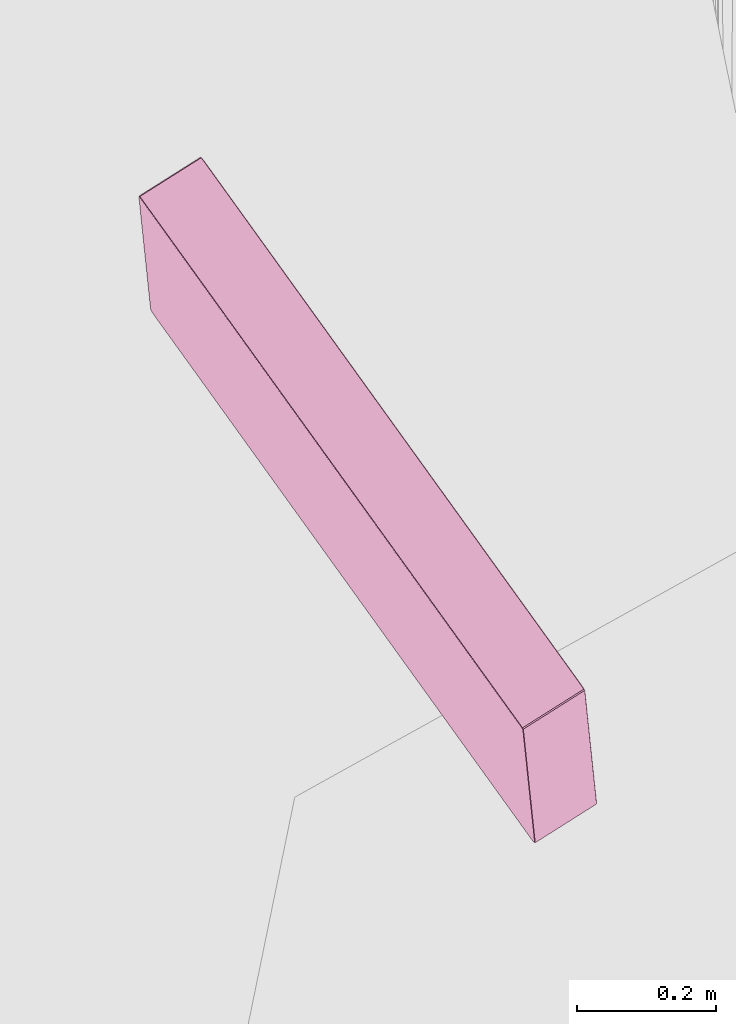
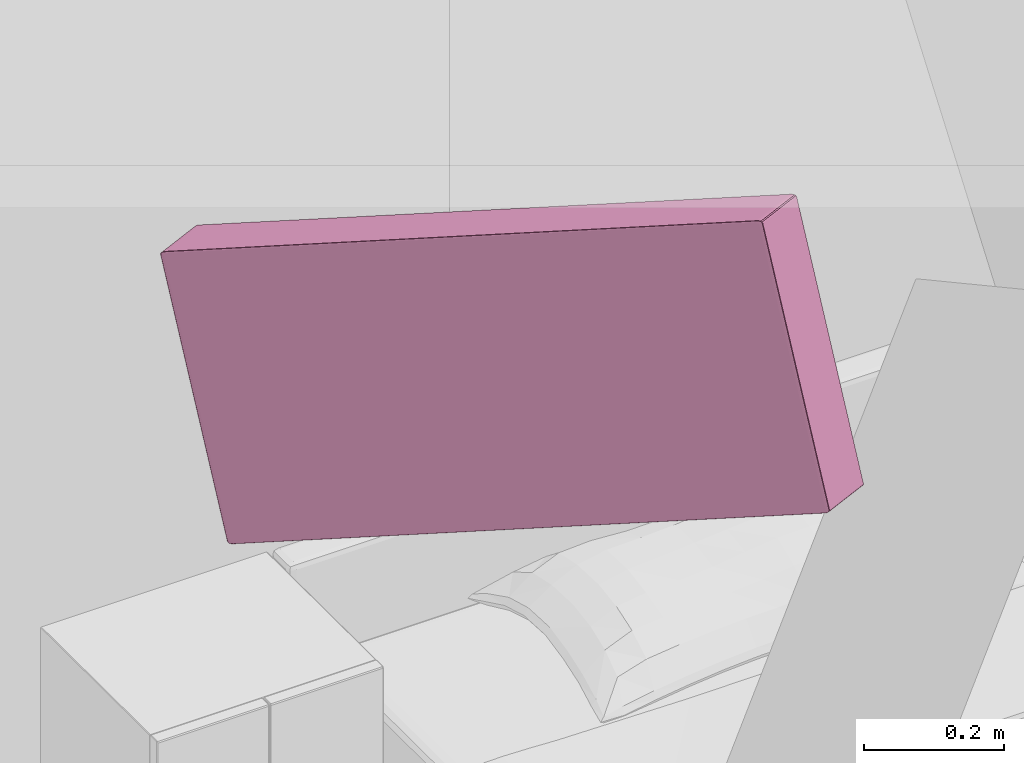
# One storey, part 9 of 15: 1 furniture element.
"""IFC4 building model written with IfcOpenShell, lengths in metres."""

from ifc_helpers import new_model, si_unit, direction, frame, origin_with_axes, place, context, project, spatial, polygons, element, save


model = new_model("IFC4")

# Units and contexts
model_context = context("Model", 3, precision=1e-05, world=origin_with_axes(), true_north=direction((-0.077, 0.997, 0.0)))
ifc_project = project(units=[si_unit("AREAUNIT", "SQUARE_METRE"), si_unit("LENGTHUNIT", "METRE")], contexts=[model_context])

# Site, building, storey, space
site_placement = place(None, origin_with_axes())
site = spatial("IfcSite", under=ifc_project, at=site_placement, Name="Site", CompositionType="ELEMENT")
building_placement = place(site_placement, origin_with_axes())
building = spatial("IfcBuilding", under=site, at=building_placement, Name="Building", CompositionType="ELEMENT")
storey_placement = place(building_placement, frame((0.0, 0.0, 5.71135139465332), z_axis=(0.0, 0.0, 1.0), x_axis=(1.0, 0.0, 0.0)))
storey = spatial("IfcBuildingStorey", under=building, at=storey_placement, Name="Story 2", CompositionType="ELEMENT", Elevation=5.71135139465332)
space_placement = place(storey_placement, frame((4.15984517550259, -1.64373686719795, 0.0), z_axis=(0.0, 0.0, 1.0), x_axis=(1.0, 0.0, 0.0)))
space = spatial("IfcSpace", under=storey, at=space_placement, Name="016", CompositionType="ELEMENT")

# Furniture
furniture_placement = place(space_placement, frame((1.26217812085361, -1.47384187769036, 1.90267133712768), z_axis=(-0.0384257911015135, 0.367794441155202, 0.9291128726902), x_axis=(0.832733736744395, 0.525730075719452, -0.173673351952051)))
element("IfcFurniture", 1, at=furniture_placement, inside=space, Name="box", PredefinedType="USERDEFINED", context=model_context, shape_type="Tessellation", body=[
    polygons([(0.053, -0.5005, 0.2201), (-0.053, -0.5005, 0.2201), (-0.053, -0.5005, -0.2201), (0.053, -0.5005, -0.2201), (0.053, 0.5005, 0.2201), (0.053, 0.5005, -0.2201), (-0.053, 0.5005, -0.2201), (-0.053, 0.5005, 0.2201), (0.053, -0.4905, 0.2246), (0.053, 0.4905, 0.2246), (-0.053, 0.4905, 0.2246), (-0.053, -0.4905, 0.2246), (-0.0541, -0.4905, 0.2201), (-0.0541, 0.4905, 0.2201), (-0.0541, 0.4905, -0.2201), (-0.0541, -0.4905, -0.2201), (-0.053, -0.4905, -0.2246), (-0.053, 0.4905, -0.2246), (0.053, 0.4905, -0.2246), (0.053, -0.4905, -0.2246), (0.0541, -0.4905, -0.2201), (0.0541, 0.4905, -0.2201), (0.0541, 0.4905, 0.2201), (0.0541, -0.4905, 0.2201), (0.053, -0.5005, 0.2201), (0.0535, -0.4999, 0.2201), (0.0535, -0.4992, 0.2219), (0.053, -0.4999, 0.222), (0.0535, -0.4999, 0.2201), (0.0539, -0.498, 0.2201), (0.0538, -0.4977, 0.2216), (0.0535, -0.4992, 0.2219), (0.053, -0.4999, 0.222), (0.0535, -0.4992, 0.2219), (0.0534, -0.4977, 0.2233), (0.053, -0.498, 0.2234), (0.0535, -0.4992, 0.2219), (0.0538, -0.4977, 0.2216), (0.0537, -0.4967, 0.2229), (0.0534, -0.4977, 0.2233), (0.053, -0.5005, -0.2201), (0.053, -0.4999, -0.222), (0.0535, -0.4992, -0.2219), (0.0535, -0.4999, -0.2201), (0.053, -0.4999, -0.222), (0.053, -0.498, -0.2234), (0.0534, -0.4977, -0.2233), (0.0535, -0.4992, -0.2219), (0.0535, -0.4999, -0.2201), (0.0535, -0.4992, -0.2219), (0.0538, -0.4977, -0.2216), (0.0539, -0.498, -0.2201), (0.0535, -0.4992, -0.2219), (0.0534, -0.4977, -0.2233), (0.0537, -0.4967, -0.2229), (0.0538, -0.4977, -0.2216), (-0.053, -0.5005, -0.2201), (-0.0535, -0.4999, -0.2201), (-0.0535, -0.4992, -0.2219), (-0.053, -0.4999, -0.222), (-0.0535, -0.4999, -0.2201), (-0.0539, -0.498, -0.2201), (-0.0538, -0.4977, -0.2216), (-0.0535, -0.4992, -0.2219), (-0.053, -0.4999, -0.222), (-0.0535, -0.4992, -0.2219), (-0.0534, -0.4977, -0.2233), (-0.053, -0.498, -0.2234), (-0.0535, -0.4992, -0.2219), (-0.0538, -0.4977, -0.2216), (-0.0537, -0.4967, -0.2229), (-0.0534, -0.4977, -0.2233), (-0.053, -0.5005, 0.2201), (-0.053, -0.4999, 0.222), (-0.0535, -0.4992, 0.2219), (-0.0535, -0.4999, 0.2201), (-0.053, -0.4999, 0.222), (-0.053, -0.498, 0.2234), (-0.0534, -0.4977, 0.2233), (-0.0535, -0.4992, 0.2219), (-0.0535, -0.4999, 0.2201), (-0.0535, -0.4992, 0.2219), (-0.0538, -0.4977, 0.2216), (-0.0539, -0.498, 0.2201), (-0.0535, -0.4992, 0.2219), (-0.0534, -0.4977, 0.2233), (-0.0537, -0.4967, 0.2229), (-0.0538, -0.4977, 0.2216), (0.053, 0.5005, 0.2201), (0.053, 0.4999, 0.222), (0.0535, 0.4992, 0.2219), (0.0535, 0.4999, 0.2201), (0.053, 0.4999, 0.222), (0.053, 0.498, 0.2234), (0.0534, 0.4977, 0.2233), (0.0535, 0.4992, 0.2219), (0.0535, 0.4999, 0.2201), (0.0535, 0.4992, 0.2219), (0.0538, 0.4977, 0.2216), (0.0539, 0.498, 0.2201), (0.0535, 0.4992, 0.2219), (0.0534, 0.4977, 0.2233), (0.0537, 0.4967, 0.2229), (0.0538, 0.4977, 0.2216), (-0.053, 0.5005, 0.2201), (-0.0535, 0.4999, 0.2201), (-0.0535, 0.4992, 0.2219), (-0.053, 0.4999, 0.222), (-0.0535, 0.4999, 0.2201), (-0.0539, 0.498, 0.2201), (-0.0538, 0.4977, 0.2216), (-0.0535, 0.4992, 0.2219), (-0.053, 0.4999, 0.222), (-0.0535, 0.4992, 0.2219), (-0.0534, 0.4977, 0.2233), (-0.053, 0.498, 0.2234), (-0.0535, 0.4992, 0.2219), (-0.0538, 0.4977, 0.2216), (-0.0537, 0.4967, 0.2229), (-0.0534, 0.4977, 0.2233), (-0.053, 0.5005, -0.2201), (-0.053, 0.4999, -0.222), (-0.0535, 0.4992, -0.2219), (-0.0535, 0.4999, -0.2201), (-0.053, 0.4999, -0.222), (-0.053, 0.498, -0.2234), (-0.0534, 0.4977, -0.2233), (-0.0535, 0.4992, -0.2219), (-0.0535, 0.4999, -0.2201), (-0.0535, 0.4992, -0.2219), (-0.0538, 0.4977, -0.2216), (-0.0539, 0.498, -0.2201), (-0.0535, 0.4992, -0.2219), (-0.0534, 0.4977, -0.2233), (-0.0537, 0.4967, -0.2229), (-0.0538, 0.4977, -0.2216), (0.053, 0.5005, -0.2201), (0.0535, 0.4999, -0.2201), (0.0535, 0.4992, -0.2219), (0.053, 0.4999, -0.222), (0.0535, 0.4999, -0.2201), (0.0539, 0.498, -0.2201), (0.0538, 0.4977, -0.2216), (0.0535, 0.4992, -0.2219), (0.053, 0.4999, -0.222), (0.0535, 0.4992, -0.2219), (0.0534, 0.4977, -0.2233), (0.053, 0.498, -0.2234), (0.0535, 0.4992, -0.2219), (0.0538, 0.4977, -0.2216), (0.0537, 0.4967, -0.2229), (0.0534, 0.4977, -0.2233), (0.053, -0.4905, 0.2246), (0.053, -0.4949, 0.2243), (0.0535, -0.4946, 0.224), (0.0535, -0.4905, 0.2243), (0.053, -0.4949, 0.2243), (0.053, -0.498, 0.2234), (0.0534, -0.4977, 0.2233), (0.0535, -0.4946, 0.224), (0.0535, -0.4905, 0.2243), (0.0535, -0.4946, 0.224), (0.0538, -0.4939, 0.2233), (0.0539, -0.4905, 0.2234), (0.0535, -0.4946, 0.224), (0.0534, -0.4977, 0.2233), (0.0537, -0.4967, 0.2229), (0.0538, -0.4939, 0.2233), (-0.053, -0.4905, 0.2246), (-0.0535, -0.4905, 0.2243), (-0.0535, -0.4946, 0.224), (-0.053, -0.4949, 0.2243), (-0.0535, -0.4905, 0.2243), (-0.0539, -0.4905, 0.2234), (-0.0538, -0.4939, 0.2233), (-0.0535, -0.4946, 0.224), (-0.053, -0.4949, 0.2243), (-0.0535, -0.4946, 0.224), (-0.0534, -0.4977, 0.2233), (-0.053, -0.498, 0.2234), (-0.0535, -0.4946, 0.224), (-0.0538, -0.4939, 0.2233), (-0.0537, -0.4967, 0.2229), (-0.0534, -0.4977, 0.2233), (-0.053, 0.4905, 0.2246), (-0.053, 0.4949, 0.2243), (-0.0535, 0.4946, 0.224), (-0.0535, 0.4905, 0.2243), (-0.053, 0.4949, 0.2243), (-0.053, 0.498, 0.2234), (-0.0534, 0.4977, 0.2233), (-0.0535, 0.4946, 0.224), (-0.0535, 0.4905, 0.2243), (-0.0535, 0.4946, 0.224), (-0.0538, 0.4939, 0.2233), (-0.0539, 0.4905, 0.2234), (-0.0535, 0.4946, 0.224), (-0.0534, 0.4977, 0.2233), (-0.0537, 0.4967, 0.2229), (-0.0538, 0.4939, 0.2233), (0.053, 0.4905, 0.2246), (0.0535, 0.4905, 0.2243), (0.0535, 0.4946, 0.224), (0.053, 0.4949, 0.2243), (0.0535, 0.4905, 0.2243), (0.0539, 0.4905, 0.2234), (0.0538, 0.4939, 0.2233), (0.0535, 0.4946, 0.224), (0.053, 0.4949, 0.2243), (0.0535, 0.4946, 0.224), (0.0534, 0.4977, 0.2233), (0.053, 0.498, 0.2234), (0.0535, 0.4946, 0.224), (0.0538, 0.4939, 0.2233), (0.0537, 0.4967, 0.2229), (0.0534, 0.4977, 0.2233), (-0.0541, -0.4905, 0.2201), (-0.0541, -0.4949, 0.2201), (-0.054, -0.4946, 0.2219), (-0.0541, -0.4905, 0.222), (-0.0541, -0.4949, 0.2201), (-0.0539, -0.498, 0.2201), (-0.0538, -0.4977, 0.2216), (-0.054, -0.4946, 0.2219), (-0.0541, -0.4905, 0.222), (-0.054, -0.4946, 0.2219), (-0.0538, -0.4939, 0.2233), (-0.0539, -0.4905, 0.2234), (-0.054, -0.4946, 0.2219), (-0.0538, -0.4977, 0.2216), (-0.0537, -0.4967, 0.2229), (-0.0538, -0.4939, 0.2233), (-0.0541, -0.4905, -0.2201), (-0.0541, -0.4905, -0.222), (-0.054, -0.4946, -0.2219), (-0.0541, -0.4949, -0.2201), (-0.0541, -0.4905, -0.222), (-0.0539, -0.4905, -0.2234), (-0.0538, -0.4939, -0.2233), (-0.054, -0.4946, -0.2219), (-0.0541, -0.4949, -0.2201), (-0.054, -0.4946, -0.2219), (-0.0538, -0.4977, -0.2216), (-0.0539, -0.498, -0.2201), (-0.054, -0.4946, -0.2219), (-0.0538, -0.4939, -0.2233), (-0.0537, -0.4967, -0.2229), (-0.0538, -0.4977, -0.2216), (-0.0541, 0.4905, -0.2201), (-0.0541, 0.4949, -0.2201), (-0.054, 0.4946, -0.2219), (-0.0541, 0.4905, -0.222), (-0.0541, 0.4949, -0.2201), (-0.0539, 0.498, -0.2201), (-0.0538, 0.4977, -0.2216), (-0.054, 0.4946, -0.2219), (-0.0541, 0.4905, -0.222), (-0.054, 0.4946, -0.2219), (-0.0538, 0.4939, -0.2233), (-0.0539, 0.4905, -0.2234), (-0.054, 0.4946, -0.2219), (-0.0538, 0.4977, -0.2216), (-0.0537, 0.4967, -0.2229), (-0.0538, 0.4939, -0.2233), (-0.0541, 0.4905, 0.2201), (-0.0541, 0.4905, 0.222), (-0.054, 0.4946, 0.2219), (-0.0541, 0.4949, 0.2201), (-0.0541, 0.4905, 0.222), (-0.0539, 0.4905, 0.2234), (-0.0538, 0.4939, 0.2233), (-0.054, 0.4946, 0.2219), (-0.0541, 0.4949, 0.2201), (-0.054, 0.4946, 0.2219), (-0.0538, 0.4977, 0.2216), (-0.0539, 0.498, 0.2201), (-0.054, 0.4946, 0.2219), (-0.0538, 0.4939, 0.2233), (-0.0537, 0.4967, 0.2229), (-0.0538, 0.4977, 0.2216), (-0.053, -0.4905, -0.2246), (-0.053, -0.4949, -0.2243), (-0.0535, -0.4946, -0.224), (-0.0535, -0.4905, -0.2243), (-0.053, -0.4949, -0.2243), (-0.053, -0.498, -0.2234), (-0.0534, -0.4977, -0.2233), (-0.0535, -0.4946, -0.224), (-0.0535, -0.4905, -0.2243), (-0.0535, -0.4946, -0.224), (-0.0538, -0.4939, -0.2233), (-0.0539, -0.4905, -0.2234), (-0.0535, -0.4946, -0.224), (-0.0534, -0.4977, -0.2233), (-0.0537, -0.4967, -0.2229), (-0.0538, -0.4939, -0.2233), (0.053, -0.4905, -0.2246), (0.0535, -0.4905, -0.2243), (0.0535, -0.4946, -0.224), (0.053, -0.4949, -0.2243), (0.0535, -0.4905, -0.2243), (0.0539, -0.4905, -0.2234), (0.0538, -0.4939, -0.2233), (0.0535, -0.4946, -0.224), (0.053, -0.4949, -0.2243), (0.0535, -0.4946, -0.224), (0.0534, -0.4977, -0.2233), (0.053, -0.498, -0.2234), (0.0535, -0.4946, -0.224), (0.0538, -0.4939, -0.2233), (0.0537, -0.4967, -0.2229), (0.0534, -0.4977, -0.2233), (0.053, 0.4905, -0.2246), (0.053, 0.4949, -0.2243), (0.0535, 0.4946, -0.224), (0.0535, 0.4905, -0.2243), (0.053, 0.4949, -0.2243), (0.053, 0.498, -0.2234), (0.0534, 0.4977, -0.2233), (0.0535, 0.4946, -0.224), (0.0535, 0.4905, -0.2243), (0.0535, 0.4946, -0.224), (0.0538, 0.4939, -0.2233), (0.0539, 0.4905, -0.2234), (0.0535, 0.4946, -0.224), (0.0534, 0.4977, -0.2233), (0.0537, 0.4967, -0.2229), (0.0538, 0.4939, -0.2233), (-0.053, 0.4905, -0.2246), (-0.0535, 0.4905, -0.2243), (-0.0535, 0.4946, -0.224), (-0.053, 0.4949, -0.2243), (-0.0535, 0.4905, -0.2243), (-0.0539, 0.4905, -0.2234), (-0.0538, 0.4939, -0.2233), (-0.0535, 0.4946, -0.224), (-0.053, 0.4949, -0.2243), (-0.0535, 0.4946, -0.224), (-0.0534, 0.4977, -0.2233), (-0.053, 0.498, -0.2234), (-0.0535, 0.4946, -0.224), (-0.0538, 0.4939, -0.2233), (-0.0537, 0.4967, -0.2229), (-0.0534, 0.4977, -0.2233), (0.0541, -0.4905, -0.2201), (0.0541, -0.4949, -0.2201), (0.054, -0.4946, -0.2219), (0.0541, -0.4905, -0.222), (0.0541, -0.4949, -0.2201), (0.0539, -0.498, -0.2201), (0.0538, -0.4977, -0.2216), (0.054, -0.4946, -0.2219), (0.0541, -0.4905, -0.222), (0.054, -0.4946, -0.2219), (0.0538, -0.4939, -0.2233), (0.0539, -0.4905, -0.2234), (0.054, -0.4946, -0.2219), (0.0538, -0.4977, -0.2216), (0.0537, -0.4967, -0.2229), (0.0538, -0.4939, -0.2233), (0.0541, -0.4905, 0.2201), (0.0541, -0.4905, 0.222), (0.054, -0.4946, 0.2219), (0.0541, -0.4949, 0.2201), (0.0541, -0.4905, 0.222), (0.0539, -0.4905, 0.2234), (0.0538, -0.4939, 0.2233), (0.054, -0.4946, 0.2219), (0.0541, -0.4949, 0.2201), (0.054, -0.4946, 0.2219), (0.0538, -0.4977, 0.2216), (0.0539, -0.498, 0.2201), (0.054, -0.4946, 0.2219), (0.0538, -0.4939, 0.2233), (0.0537, -0.4967, 0.2229), (0.0538, -0.4977, 0.2216), (0.0541, 0.4905, 0.2201), (0.0541, 0.4949, 0.2201), (0.054, 0.4946, 0.2219), (0.0541, 0.4905, 0.222), (0.0541, 0.4949, 0.2201), (0.0539, 0.498, 0.2201), (0.0538, 0.4977, 0.2216), (0.054, 0.4946, 0.2219), (0.0541, 0.4905, 0.222), (0.054, 0.4946, 0.2219), (0.0538, 0.4939, 0.2233), (0.0539, 0.4905, 0.2234), (0.054, 0.4946, 0.2219), (0.0538, 0.4977, 0.2216), (0.0537, 0.4967, 0.2229), (0.0538, 0.4939, 0.2233), (0.0541, 0.4905, -0.2201), (0.0541, 0.4905, -0.222), (0.054, 0.4946, -0.2219), (0.0541, 0.4949, -0.2201), (0.0541, 0.4905, -0.222), (0.0539, 0.4905, -0.2234), (0.0538, 0.4939, -0.2233), (0.054, 0.4946, -0.2219), (0.0541, 0.4949, -0.2201), (0.054, 0.4946, -0.2219), (0.0538, 0.4977, -0.2216), (0.0539, 0.498, -0.2201), (0.054, 0.4946, -0.2219), (0.0538, 0.4939, -0.2233), (0.0537, 0.4967, -0.2229), (0.0538, 0.4977, -0.2216), (0.053, -0.5005, -0.2201), (0.0535, -0.4999, -0.2201), (0.0535, -0.4999, 0.2201), (0.053, -0.5005, 0.2201), (0.0535, -0.4999, -0.2201), (0.0539, -0.498, -0.2201), (0.0539, -0.498, 0.2201), (0.0535, -0.4999, 0.2201), (-0.053, -0.5005, -0.2201), (-0.053, -0.4999, -0.222), (0.053, -0.4999, -0.222), (0.053, -0.5005, -0.2201), (-0.053, -0.4999, -0.222), (-0.053, -0.498, -0.2234), (0.053, -0.498, -0.2234), (0.053, -0.4999, -0.222), (-0.053, -0.5005, 0.2201), (-0.0535, -0.4999, 0.2201), (-0.0535, -0.4999, -0.2201), (-0.053, -0.5005, -0.2201), (-0.0535, -0.4999, 0.2201), (-0.0539, -0.498, 0.2201), (-0.0539, -0.498, -0.2201), (-0.0535, -0.4999, -0.2201), (0.053, -0.5005, 0.2201), (0.053, -0.4999, 0.222), (-0.053, -0.4999, 0.222), (-0.053, -0.5005, 0.2201), (0.053, -0.4999, 0.222), (0.053, -0.498, 0.2234), (-0.053, -0.498, 0.2234), (-0.053, -0.4999, 0.222), (-0.053, 0.5005, 0.2201), (-0.053, 0.4999, 0.222), (0.053, 0.4999, 0.222), (0.053, 0.5005, 0.2201), (-0.053, 0.4999, 0.222), (-0.053, 0.498, 0.2234), (0.053, 0.498, 0.2234), (0.053, 0.4999, 0.222), (-0.053, 0.5005, -0.2201), (-0.0535, 0.4999, -0.2201), (-0.0535, 0.4999, 0.2201), (-0.053, 0.5005, 0.2201), (-0.0535, 0.4999, -0.2201), (-0.0539, 0.498, -0.2201), (-0.0539, 0.498, 0.2201), (-0.0535, 0.4999, 0.2201), (0.053, 0.5005, -0.2201), (0.053, 0.4999, -0.222), (-0.053, 0.4999, -0.222), (-0.053, 0.5005, -0.2201), (0.053, 0.4999, -0.222), (0.053, 0.498, -0.2234), (-0.053, 0.498, -0.2234), (-0.053, 0.4999, -0.222), (0.053, 0.5005, 0.2201), (0.0535, 0.4999, 0.2201), (0.0535, 0.4999, -0.2201), (0.053, 0.5005, -0.2201), (0.0535, 0.4999, 0.2201), (0.0539, 0.498, 0.2201), (0.0539, 0.498, -0.2201), (0.0535, 0.4999, -0.2201), (-0.053, -0.4905, 0.2246), (-0.053, -0.4949, 0.2243), (0.053, -0.4949, 0.2243), (0.053, -0.4905, 0.2246), (-0.053, -0.4949, 0.2243), (-0.053, -0.498, 0.2234), (0.053, -0.498, 0.2234), (0.053, -0.4949, 0.2243), (-0.053, 0.4905, 0.2246), (-0.0535, 0.4905, 0.2243), (-0.0535, -0.4905, 0.2243), (-0.053, -0.4905, 0.2246), (-0.0535, 0.4905, 0.2243), (-0.0539, 0.4905, 0.2234), (-0.0539, -0.4905, 0.2234), (-0.0535, -0.4905, 0.2243), (0.053, 0.4905, 0.2246), (0.053, 0.4949, 0.2243), (-0.053, 0.4949, 0.2243), (-0.053, 0.4905, 0.2246), (0.053, 0.4949, 0.2243), (0.053, 0.498, 0.2234), (-0.053, 0.498, 0.2234), (-0.053, 0.4949, 0.2243), (0.053, -0.4905, 0.2246), (0.0535, -0.4905, 0.2243), (0.0535, 0.4905, 0.2243), (0.053, 0.4905, 0.2246), (0.0535, -0.4905, 0.2243), (0.0539, -0.4905, 0.2234), (0.0539, 0.4905, 0.2234), (0.0535, 0.4905, 0.2243), (-0.0541, -0.4905, -0.2201), (-0.0541, -0.4949, -0.2201), (-0.0541, -0.4949, 0.2201), (-0.0541, -0.4905, 0.2201), (-0.0541, -0.4949, -0.2201), (-0.0539, -0.498, -0.2201), (-0.0539, -0.498, 0.2201), (-0.0541, -0.4949, 0.2201), (-0.0541, 0.4905, -0.2201), (-0.0541, 0.4905, -0.222), (-0.0541, -0.4905, -0.222), (-0.0541, -0.4905, -0.2201), (-0.0541, 0.4905, -0.222), (-0.0539, 0.4905, -0.2234), (-0.0539, -0.4905, -0.2234), (-0.0541, -0.4905, -0.222), (-0.0541, 0.4905, 0.2201), (-0.0541, 0.4949, 0.2201), (-0.0541, 0.4949, -0.2201), (-0.0541, 0.4905, -0.2201), (-0.0541, 0.4949, 0.2201), (-0.0539, 0.498, 0.2201), (-0.0539, 0.498, -0.2201), (-0.0541, 0.4949, -0.2201), (-0.0541, -0.4905, 0.2201), (-0.0541, -0.4905, 0.222), (-0.0541, 0.4905, 0.222), (-0.0541, 0.4905, 0.2201), (-0.0541, -0.4905, 0.222), (-0.0539, -0.4905, 0.2234), (-0.0539, 0.4905, 0.2234), (-0.0541, 0.4905, 0.222), (0.053, -0.4905, -0.2246), (0.053, -0.4949, -0.2243), (-0.053, -0.4949, -0.2243), (-0.053, -0.4905, -0.2246), (0.053, -0.4949, -0.2243), (0.053, -0.498, -0.2234), (-0.053, -0.498, -0.2234), (-0.053, -0.4949, -0.2243), (0.053, 0.4905, -0.2246), (0.0535, 0.4905, -0.2243), (0.0535, -0.4905, -0.2243), (0.053, -0.4905, -0.2246), (0.0535, 0.4905, -0.2243), (0.0539, 0.4905, -0.2234), (0.0539, -0.4905, -0.2234), (0.0535, -0.4905, -0.2243), (-0.053, 0.4905, -0.2246), (-0.053, 0.4949, -0.2243), (0.053, 0.4949, -0.2243), (0.053, 0.4905, -0.2246), (-0.053, 0.4949, -0.2243), (-0.053, 0.498, -0.2234), (0.053, 0.498, -0.2234), (0.053, 0.4949, -0.2243), (-0.053, -0.4905, -0.2246), (-0.0535, -0.4905, -0.2243), (-0.0535, 0.4905, -0.2243), (-0.053, 0.4905, -0.2246), (-0.0535, -0.4905, -0.2243), (-0.0539, -0.4905, -0.2234), (-0.0539, 0.4905, -0.2234), (-0.0535, 0.4905, -0.2243), (0.0541, -0.4905, 0.2201), (0.0541, -0.4949, 0.2201), (0.0541, -0.4949, -0.2201), (0.0541, -0.4905, -0.2201), (0.0541, -0.4949, 0.2201), (0.0539, -0.498, 0.2201), (0.0539, -0.498, -0.2201), (0.0541, -0.4949, -0.2201), (0.0541, 0.4905, 0.2201), (0.0541, 0.4905, 0.222), (0.0541, -0.4905, 0.222), (0.0541, -0.4905, 0.2201), (0.0541, 0.4905, 0.222), (0.0539, 0.4905, 0.2234), (0.0539, -0.4905, 0.2234), (0.0541, -0.4905, 0.222), (0.0541, 0.4905, -0.2201), (0.0541, 0.4949, -0.2201), (0.0541, 0.4949, 0.2201), (0.0541, 0.4905, 0.2201), (0.0541, 0.4949, -0.2201), (0.0539, 0.498, -0.2201), (0.0539, 0.498, 0.2201), (0.0541, 0.4949, 0.2201), (0.0541, -0.4905, -0.2201), (0.0541, -0.4905, -0.222), (0.0541, 0.4905, -0.222), (0.0541, 0.4905, -0.2201), (0.0541, -0.4905, -0.222), (0.0539, -0.4905, -0.2234), (0.0539, 0.4905, -0.2234), (0.0541, 0.4905, -0.222)], [[[1, 2, 3, 4]], [[5, 6, 7, 8]], [[9, 10, 11, 12]], [[13, 14, 15, 16]], [[17, 18, 19, 20]], [[21, 22, 23, 24]], [[25, 26, 27, 28]], [[29, 30, 31, 32]], [[33, 34, 35, 36]], [[37, 38, 39, 40]], [[41, 42, 43, 44]], [[45, 46, 47, 48]], [[49, 50, 51, 52]], [[53, 54, 55, 56]], [[57, 58, 59, 60]], [[61, 62, 63, 64]], [[65, 66, 67, 68]], [[69, 70, 71, 72]], [[73, 74, 75, 76]], [[77, 78, 79, 80]], [[81, 82, 83, 84]], [[85, 86, 87, 88]], [[89, 90, 91, 92]], [[93, 94, 95, 96]], [[97, 98, 99, 100]], [[101, 102, 103, 104]], [[105, 106, 107, 108]], [[109, 110, 111, 112]], [[113, 114, 115, 116]], [[117, 118, 119, 120]], [[121, 122, 123, 124]], [[125, 126, 127, 128]], [[129, 130, 131, 132]], [[133, 134, 135, 136]], [[137, 138, 139, 140]], [[141, 142, 143, 144]], [[145, 146, 147, 148]], [[149, 150, 151, 152]], [[153, 154, 155, 156]], [[157, 158, 159, 160]], [[161, 162, 163, 164]], [[165, 166, 167, 168]], [[169, 170, 171, 172]], [[173, 174, 175, 176]], [[177, 178, 179, 180]], [[181, 182, 183, 184]], [[185, 186, 187, 188]], [[189, 190, 191, 192]], [[193, 194, 195, 196]], [[197, 198, 199, 200]], [[201, 202, 203, 204]], [[205, 206, 207, 208]], [[209, 210, 211, 212]], [[213, 214, 215, 216]], [[217, 218, 219, 220]], [[221, 222, 223, 224]], [[225, 226, 227, 228]], [[229, 230, 231, 232]], [[233, 234, 235, 236]], [[237, 238, 239, 240]], [[241, 242, 243, 244]], [[245, 246, 247, 248]], [[249, 250, 251, 252]], [[253, 254, 255, 256]], [[257, 258, 259, 260]], [[261, 262, 263, 264]], [[265, 266, 267, 268]], [[269, 270, 271, 272]], [[273, 274, 275, 276]], [[277, 278, 279, 280]], [[281, 282, 283, 284]], [[285, 286, 287, 288]], [[289, 290, 291, 292]], [[293, 294, 295, 296]], [[297, 298, 299, 300]], [[301, 302, 303, 304]], [[305, 306, 307, 308]], [[309, 310, 311, 312]], [[313, 314, 315, 316]], [[317, 318, 319, 320]], [[321, 322, 323, 324]], [[325, 326, 327, 328]], [[329, 330, 331, 332]], [[333, 334, 335, 336]], [[337, 338, 339, 340]], [[341, 342, 343, 344]], [[345, 346, 347, 348]], [[349, 350, 351, 352]], [[353, 354, 355, 356]], [[357, 358, 359, 360]], [[361, 362, 363, 364]], [[365, 366, 367, 368]], [[369, 370, 371, 372]], [[373, 374, 375, 376]], [[377, 378, 379, 380]], [[381, 382, 383, 384]], [[385, 386, 387, 388]], [[389, 390, 391, 392]], [[393, 394, 395, 396]], [[397, 398, 399, 400]], [[401, 402, 403, 404]], [[405, 406, 407, 408]], [[409, 410, 411, 412]], [[413, 414, 415, 416]], [[417, 418, 419, 420]], [[421, 422, 423, 424]], [[425, 426, 427, 428]], [[429, 430, 431, 432]], [[433, 434, 435, 436]], [[437, 438, 439, 440]], [[441, 442, 443, 444]], [[445, 446, 447, 448]], [[449, 450, 451, 452]], [[453, 454, 455, 456]], [[457, 458, 459, 460]], [[461, 462, 463, 464]], [[465, 466, 467, 468]], [[469, 470, 471, 472]], [[473, 474, 475, 476]], [[477, 478, 479, 480]], [[481, 482, 483, 484]], [[485, 486, 487, 488]], [[489, 490, 491, 492]], [[493, 494, 495, 496]], [[497, 498, 499, 500]], [[501, 502, 503, 504]], [[505, 506, 507, 508]], [[509, 510, 511, 512]], [[513, 514, 515, 516]], [[517, 518, 519, 520]], [[521, 522, 523, 524]], [[525, 526, 527, 528]], [[529, 530, 531, 532]], [[533, 534, 535, 536]], [[537, 538, 539, 540]], [[541, 542, 543, 544]], [[545, 546, 547, 548]], [[549, 550, 551, 552]], [[553, 554, 555, 556]], [[557, 558, 559, 560]], [[561, 562, 563, 564]], [[565, 566, 567, 568]], [[569, 570, 571, 572]], [[573, 574, 575, 576]], [[577, 578, 579, 580]], [[581, 582, 583, 584]], [[585, 586, 587, 588]], [[589, 590, 591, 592]], [[593, 594, 595, 596]], [[597, 598, 599, 600]]]),
])

save(model, "model.ifc")
